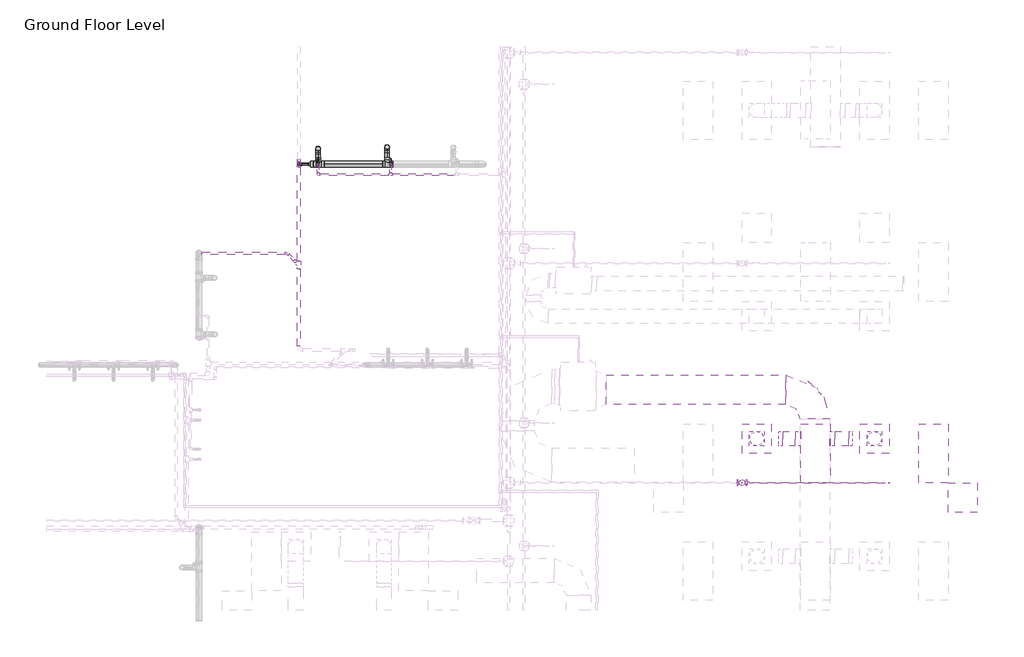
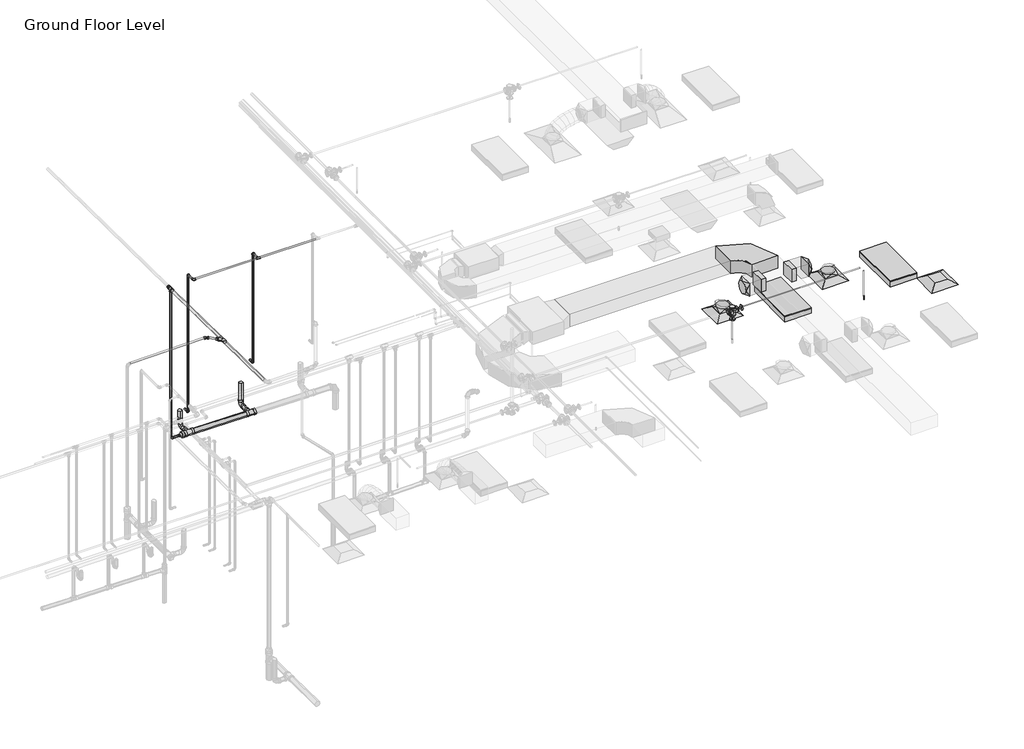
# One storey, part 20 of 75: 24 pipe segments, 20 pipe fittings, 7 duct fittings, 5 duct segments, 3 air terminals, 2 light fixtures, 1 fire suppression terminal.
"""IFC4 building model written with IfcOpenShell, lengths in millimetres."""

from ifc_helpers import new_model, si_unit, point, frame, frame_2d, origin, place, context, project, spatial, polyline, circle_curve, ellipse_curve, trimmed, segment, composite_curve, outline, extrude, transform, mapped, element, save
from ifc_brep_helpers import plane_surface, cylinder_surface, advanced_brep
from components import m_return_diffuser_600_x_600_face_300_x_300_connection_ff221211, m_rectangular_elbow_radius_1_w_c6ed0251, m_rectangular_takeoff_standard_cb0ccb98, m_rectangular_takeoff_standard_2be5eba1, m_rectangular_to_round_transition_angle_45_degree_641efff0, m_sprinkler_dry_pendent_hosted_15_mm_dry_pendent_9bda8e11, m_troffer_light_parabolic_rectangular1_0600x1200mm_4_lamp_86473d4a, m_bend_pvc_sch_40_dwv_standard_a4b99d37, m_bend_pvc_sch_40_dwv_standard_877aed9a, m_bend_pvc_sch_40_dwv_standard_980e5ff7, m_reducer_flanged_cs_class_150_standard_ccf252ad, m_reducer_pvc_sch_40_dwv_standard_19331f3d, m_reducer_pvc_sch_40_dwv_standard_230e9924, m_reducer_pvc_sch_40_dwv_standard_312d928c, m_tee_pvc_sch_40_standard_151c2b90, m_tee_reducing_sanitary_pvc_sch_40_dwv_standard_b49161a9, m_tee_reducing_sanitary_pvc_sch_40_dwv_standard_ca98856a, m_tee_round_base_flanged_cs_class_150_standard_7e5987a1, standard_517a5a8d, standard_72b35c3b, standard_c393d86d

model = new_model("IFC4")

# Units and contexts
model_context = context("Model", 3, world=origin())
ifc_project = project(units=[si_unit("LENGTHUNIT", "METRE", prefix="MILLI")], contexts=[model_context])

# Site, building, storey
site = spatial("IfcSite", under=ifc_project)
building = spatial("IfcBuilding", under=site)
storey = spatial("IfcBuildingStorey", under=building, Name="Ground Floor Level", Elevation=900.0)

# Air terminals
placement = place(None, origin())
m_return_diffuser_600_x_600_face_300_x_300_connection_shape = m_return_diffuser_600_x_600_face_300_x_300_connection_ff221211(model_context)
element("IfcAirTerminal", 1, ObjectType="M_Return Diffuser : 600 x 600 Face 300 x 300 Connection", at=placement, inside=storey, context=model_context, shape_type="MappedRepresentation", body=[
    mapped(m_return_diffuser_600_x_600_face_300_x_300_connection_shape, transform((14943.0482736, -35564.7846466, 3650.0), x_axis=(1.0, 0.0, 0.0), y_axis=(0.0, 1.0, 0.0), z_axis=(0.0, 0.0, 1.0))),
])
element("IfcAirTerminal", 2, ObjectType="M_Supply Diffuser : 600 x 600 Face 300 x 300 Connection", at=placement, inside=storey, context=model_context, shape_type="MappedRepresentation", body=[
    mapped(m_return_diffuser_600_x_600_face_300_x_300_connection_shape, transform((10742.7672395, -34364.7846466, 3650.0), x_axis=(1.0, 0.0, 0.0), y_axis=(0.0, 1.0, 0.0), z_axis=(0.0, 0.0, 1.0))),
])
element("IfcAirTerminal", 3, ObjectType="M_Supply Diffuser : 600 x 600 Face 300 x 300 Connection", at=placement, inside=storey, context=model_context, shape_type="MappedRepresentation", body=[
    mapped(m_return_diffuser_600_x_600_face_300_x_300_connection_shape, transform((13142.7672395, -34364.7846466, 3650.0), x_axis=(1.0, 0.0, 0.0), y_axis=(0.0, 1.0, 0.0), z_axis=(0.0, 0.0, 1.0))),
])

# Duct fittings
m_rectangular_elbow_radius_1_w_shape = m_rectangular_elbow_radius_1_w_c6ed0251(model_context)
element("IfcDuctFitting", 4, ObjectType="M_Rectangular Elbow - Radius : 1 W", at=placement, inside=storey, context=model_context, shape_type="MappedRepresentation", body=[
    mapped(m_rectangular_elbow_radius_1_w_shape, transform((11933.8644074, -33364.7726336, 4099.9875), x_axis=(0.0, 1.0, 0.0), y_axis=(-0.9999999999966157, 0.0, 2.601673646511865e-06), z_axis=(2.601673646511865e-06, 0.0, 0.9999999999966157))),
])
m_rectangular_takeoff_standard_shape = m_rectangular_takeoff_standard_cb0ccb98(model_context)
element("IfcDuctFitting", 5, ObjectType="M_Rectangular Takeoff : Standard", at=placement, inside=storey, context=model_context, shape_type="MappedRepresentation", body=[
    mapped(m_rectangular_takeoff_standard_shape, transform((12233.8644074, -34364.7846466, 4099.9875), x_axis=(1.0, 0.0, 0.0), y_axis=(0.0, -1.0, 0.0), z_axis=(0.0, 0.0, -1.0))),
])
m_rectangular_takeoff_standard_2_shape = m_rectangular_takeoff_standard_2be5eba1(model_context)
element("IfcDuctFitting", 6, ObjectType="M_Rectangular Takeoff : Standard", at=placement, inside=storey, context=model_context, shape_type="MappedRepresentation", body=[
    mapped(m_rectangular_takeoff_standard_2_shape, transform((11633.8644074, -34364.7846466, 4099.9875), x_axis=(-1.0, 0.0, 0.0), y_axis=(0.0, 1.0, 0.0), z_axis=(0.0, 0.0, -1.0))),
])
m_rectangular_to_round_transition_angle_45_degree_shape = m_rectangular_to_round_transition_angle_45_degree_641efff0(model_context)
element("IfcDuctFitting", 7, ObjectType="M_Rectangular to Round Transition - Angle : 45 Degree", at=placement, inside=storey, context=model_context, shape_type="MappedRepresentation", body=[
    mapped(m_rectangular_to_round_transition_angle_45_degree_shape, transform((10742.7672395, -34364.7846466, 3751.6), x_axis=(0.0, 0.0, 1.0), y_axis=(-1.0, 0.0, 0.0), z_axis=(0.0, -1.0, 0.0))),
])
element("IfcDuctFitting", 8, ObjectType="M_Rectangular to Round Transition - Angle : 45 Degree", at=placement, inside=storey, context=model_context, shape_type="MappedRepresentation", body=[
    mapped(m_rectangular_to_round_transition_angle_45_degree_shape, transform((11270.1156708, -34364.7846466, 4099.9875), x_axis=(-1.0, 0.0, 0.0), y_axis=(0.0, -1.0, 0.0), z_axis=(0.0, 0.0, 1.0))),
])
element("IfcDuctFitting", 9, ObjectType="M_Rectangular to Round Transition - Angle : 45 Degree", at=placement, inside=storey, context=model_context, shape_type="MappedRepresentation", body=[
    mapped(m_rectangular_to_round_transition_angle_45_degree_shape, transform((13142.7672395, -34364.7846466, 3751.6), x_axis=(0.0, 0.0, 1.0), y_axis=(-1.0, 0.0, 0.0), z_axis=(0.0, -1.0, 0.0))),
])
element("IfcDuctFitting", 10, ObjectType="M_Rectangular to Round Transition - Angle : 45 Degree", at=placement, inside=storey, context=model_context, shape_type="MappedRepresentation", body=[
    mapped(m_rectangular_to_round_transition_angle_45_degree_shape, transform((12615.4188082, -34364.7846466, 4099.9875), x_axis=(1.0, 0.0, 0.0), y_axis=(0.0, 1.0, 0.0), z_axis=(0.0, 0.0, 1.0))),
])

# Duct segments
element("IfcDuctSegment", 11, ObjectType="Flex - Round", at=placement, inside=storey, context=model_context, shape_type="AdvancedBrep", body=[
    advanced_brep(
    [(10892.7672395, -34364.7846466, 3826.6), (10742.7672395, -34514.7846466, 3826.6), (10592.7672395, -34364.7846466, 3826.6), (10742.7672395, -34214.7846466, 3826.6), (10892.7672395, -34364.7846466, 3829.8098344), (10742.7672395, -34214.7846466, 3864.5152119), (10592.7672395, -34364.7846466, 3899.2205895), (10742.7672395, -34514.7846466, 3864.5152119)],
    [
        (0, 1, circle_curve(frame((10742.7672395, -34364.7846466, 3826.6), z_axis=(0.0, 0.0, -1.0), x_axis=(1.0, 0.0, 0.0)), 150.0)),
        (1, 2, circle_curve(frame((10742.7672395, -34364.7846466, 3826.6), z_axis=(0.0, 0.0, -1.0), x_axis=(1.0, 0.0, 0.0)), 150.0)),
        (2, 3, circle_curve(frame((10742.7672395, -34364.7846466, 3826.6), z_axis=(0.0, 0.0, -1.0), x_axis=(1.0, 0.0, 0.0)), 150.0)),
        (3, 0, circle_curve(frame((10742.7672395, -34364.7846466, 3826.6), z_axis=(0.0, 0.0, -1.0), x_axis=(1.0, 0.0, 0.0)), 150.0)),
        (4, 5, ellipse_curve(frame((10742.7672395, -34364.7846466, 3864.5152119), z_axis=(0.22541442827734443, 0.0, 0.9742629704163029), x_axis=(0.9742629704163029, 0.0, -0.22541442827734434)), 153.9625384, 150.0)),
        (5, 6, ellipse_curve(frame((10742.7672395, -34364.7846466, 3864.5152119), z_axis=(0.22541442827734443, 0.0, 0.9742629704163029), x_axis=(0.9742629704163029, 0.0, -0.22541442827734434)), 153.9625384, 150.0)),
        (6, 7, ellipse_curve(frame((10742.7672395, -34364.7846466, 3864.5152119), z_axis=(0.22541442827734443, 0.0, 0.9742629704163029), x_axis=(0.9742629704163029, 0.0, -0.22541442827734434)), 153.9625384, 150.0)),
        (7, 4, ellipse_curve(frame((10742.7672395, -34364.7846466, 3864.5152119), z_axis=(0.22541442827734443, 0.0, 0.9742629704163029), x_axis=(0.9742629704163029, 0.0, -0.22541442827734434)), 153.9625384, 150.0)),
        (0, 4),
        (7, 1),
        (6, 2),
        (5, 3),
    ],
    [
        plane_surface(frame((10742.7672395, -34514.7846466, 3826.6), z_axis=(0.0, 0.0, -1.0), x_axis=(1.0, 0.0, 0.0))),
        plane_surface(frame((10742.7672395, -34514.7846466, 3864.5152119), z_axis=(0.22541442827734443, 0.0, 0.9742629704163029), x_axis=(0.9742629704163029, 0.0, -0.22541442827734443))),
        cylinder_surface(frame((10742.7672395, -34364.7846466, 3826.6), z_axis=(0.0, 0.0, -1.0), x_axis=(1.0, 0.0, 0.0)), 150.0),
    ],
    [
        (0, [[1, 2, 3, 4]]),
        (1, [[5, 6, 7, 8]]),
        (2, [[-1, 9, -8, 10]]),
        (2, [[-2, -10, -7, 11]]),
        (2, [[-3, -11, -6, 12]]),
        (2, [[-4, -12, -5, -9]]),
    ],
),
])
element("IfcDuctSegment", 12, ObjectType="Flex - Round", at=placement, inside=storey, context=model_context, shape_type="AdvancedBrep", body=[
    advanced_brep(
    [(13292.7672395, -34364.7846466, 3826.6), (13142.7672395, -34514.7846466, 3826.6), (12992.7672395, -34364.7846466, 3826.6), (13142.7672395, -34214.7846466, 3826.6), (13292.7672395, -34364.7846466, 3899.2205895), (13142.7672395, -34214.7846466, 3864.5152119), (12992.7672395, -34364.7846466, 3829.8098344), (13142.7672395, -34514.7846466, 3864.5152119)],
    [
        (0, 1, circle_curve(frame((13142.7672395, -34364.7846466, 3826.6), z_axis=(0.0, 0.0, -1.0), x_axis=(1.0, 0.0, 0.0)), 150.0)),
        (1, 2, circle_curve(frame((13142.7672395, -34364.7846466, 3826.6), z_axis=(0.0, 0.0, -1.0), x_axis=(1.0, 0.0, 0.0)), 150.0)),
        (2, 3, circle_curve(frame((13142.7672395, -34364.7846466, 3826.6), z_axis=(0.0, 0.0, -1.0), x_axis=(1.0, 0.0, 0.0)), 150.0)),
        (3, 0, circle_curve(frame((13142.7672395, -34364.7846466, 3826.6), z_axis=(0.0, 0.0, -1.0), x_axis=(1.0, 0.0, 0.0)), 150.0)),
        (4, 5, ellipse_curve(frame((13142.7672395, -34364.7846466, 3864.5152119), z_axis=(-0.22541442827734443, 0.0, 0.9742629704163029), x_axis=(-0.9742629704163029, 0.0, -0.22541442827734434)), 153.9625384, 150.0)),
        (5, 6, ellipse_curve(frame((13142.7672395, -34364.7846466, 3864.5152119), z_axis=(-0.22541442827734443, 0.0, 0.9742629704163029), x_axis=(-0.9742629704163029, 0.0, -0.22541442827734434)), 153.9625384, 150.0)),
        (6, 7, ellipse_curve(frame((13142.7672395, -34364.7846466, 3864.5152119), z_axis=(-0.22541442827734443, 0.0, 0.9742629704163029), x_axis=(-0.9742629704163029, 0.0, -0.22541442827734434)), 153.9625384, 150.0)),
        (7, 4, ellipse_curve(frame((13142.7672395, -34364.7846466, 3864.5152119), z_axis=(-0.22541442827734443, 0.0, 0.9742629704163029), x_axis=(-0.9742629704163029, 0.0, -0.22541442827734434)), 153.9625384, 150.0)),
        (0, 4),
        (7, 1),
        (6, 2),
        (5, 3),
    ],
    [
        plane_surface(frame((13142.7672395, -34514.7846466, 3826.6), z_axis=(0.0, 0.0, -1.0), x_axis=(1.0, 0.0, 0.0))),
        plane_surface(frame((13142.7672395, -34214.7846466, 3864.5152119), z_axis=(-0.22541442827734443, 0.0, 0.9742629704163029), x_axis=(-0.9742629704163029, 0.0, -0.22541442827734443))),
        cylinder_surface(frame((13142.7672395, -34364.7846466, 3826.6), z_axis=(0.0, 0.0, -1.0), x_axis=(1.0, 0.0, 0.0)), 150.0),
    ],
    [
        (0, [[1, 2, 3, 4]]),
        (1, [[5, 6, 7, 8]]),
        (2, [[-1, 9, -8, 10]]),
        (2, [[-2, -10, -7, 11]]),
        (2, [[-3, -11, -6, 12]]),
        (2, [[-4, -12, -5, -9]]),
    ],
),
])
element("IfcDuctSegment", 13, ObjectType="Radius Elbows / Taps", at=placement, inside=storey, context=model_context, shape_type="SweptSolid", body=[
    extrude(outline(polyline([(0.0, -600.0), (0.0, 0.0), (3664.5995898, 0.0), (3664.5995898, -600.0), (0.0, -600.0)])), frame((7669.2643699, -33064.7726336, 3950.0), z_axis=(2.9850453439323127e-06, 0.0, 0.9999999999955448), x_axis=(0.9999999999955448, 0.0, -2.9850453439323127e-06)), (0.0, 0.0, 1.0), 300.0),
])
element("IfcDuctSegment", 14, ObjectType="Radius Elbows / Taps", at=placement, inside=storey, context=model_context, shape_type="SweptSolid", body=[
    extrude(outline(polyline([(11532.2644074, -34214.7846466), (11532.2644074, -34514.7846466), (11270.1156708, -34514.7846466), (11270.1156708, -34214.7846466), (11532.2644074, -34214.7846466)])), frame((0.0, 0.0, 3949.9875), z_axis=(0.0, 0.0, 1.0), x_axis=(1.0, 0.0, 0.0)), (0.0, 0.0, 1.0), 300.0),
])
element("IfcDuctSegment", 15, ObjectType="Radius Elbows / Taps", at=placement, inside=storey, context=model_context, shape_type="SweptSolid", body=[
    extrude(outline(polyline([(12335.4644074, -34514.7846466), (12335.4644074, -34214.7846466), (12615.4188082, -34214.7846466), (12615.4188082, -34514.7846466), (12335.4644074, -34514.7846466)])), frame((0.0, 0.0, 3949.9875), z_axis=(0.0, 0.0, 1.0), x_axis=(1.0, 0.0, 0.0)), (0.0, 0.0, 1.0), 300.0),
])

# Fire suppression terminal
m_sprinkler_dry_pendent_hosted_15_mm_dry_pendent_shape = m_sprinkler_dry_pendent_hosted_15_mm_dry_pendent_9bda8e11(model_context)
element("IfcFireSuppressionTerminal", 16, ObjectType="M_Sprinkler - Dry - Pendent - Hosted : 15 mm Dry Pendent", at=placement, inside=storey, context=model_context, shape_type="MappedRepresentation", body=[
    mapped(m_sprinkler_dry_pendent_hosted_15_mm_dry_pendent_shape, transform((13443.0482736, -35264.7846466, 3650.0), x_axis=(1.0, 0.0, 0.0), y_axis=(0.0, -1.0, 0.0), z_axis=(0.0, 0.0, -1.0))),
])

# Light fixtures
m_troffer_light_parabolic_rectangular1_0600x1200mm_4_lamp_shape = m_troffer_light_parabolic_rectangular1_0600x1200mm_4_lamp_86473d4a(model_context)
element("IfcLightFixture", 17, ObjectType="M_Troffer Light - Parabolic Rectangular1 : 0600x1200mm(4 Lamp) - 277V 2", at=placement, inside=storey, context=model_context, shape_type="MappedRepresentation", body=[
    mapped(m_troffer_light_parabolic_rectangular1_0600x1200mm_4_lamp_shape, transform((14283.5823415, -34646.0811451, 3650.0), x_axis=(0.0, 1.0, 0.0), y_axis=(-1.0, 0.0, 0.0), z_axis=(0.0, 0.0, 1.0))),
])
element("IfcLightFixture", 18, ObjectType="M_Troffer Light - Parabolic Rectangular1 : 0600x1200mm(4 Lamp) - 277V 2", at=placement, inside=storey, context=model_context, shape_type="MappedRepresentation", body=[
    mapped(m_troffer_light_parabolic_rectangular1_0600x1200mm_4_lamp_shape, transform((11883.5823415, -34646.0811451, 3650.0), x_axis=(0.0, 1.0, 0.0), y_axis=(-1.0, 0.0, 0.0), z_axis=(0.0, 0.0, 1.0))),
])

# Pipe fittings
m_bend_pvc_sch_40_dwv_standard_shape = m_bend_pvc_sch_40_dwv_standard_a4b99d37(model_context)
element("IfcPipeFitting", 19, ObjectType="M_Bend - PVC - Sch 40 - DWV : Standard", at=placement, inside=storey, context=model_context, shape_type="MappedRepresentation", body=[
    mapped(m_bend_pvc_sch_40_dwv_standard_shape, transform((3203.6056556, -28411.2419494, 467.9903626), x_axis=(0.0, 0.0, -1.0), y_axis=(0.0, -1.0, 0.0), z_axis=(-1.0, 0.0, 0.0))),
])
element("IfcPipeFitting", 20, ObjectType="M_Bend - PVC - Sch 40 - DWV : Standard", at=placement, inside=storey, context=model_context, shape_type="MappedRepresentation", body=[
    mapped(m_bend_pvc_sch_40_dwv_standard_shape, transform((1796.7972875, -28443.3871738, 482.0584463), x_axis=(0.0, 0.0, -1.0), y_axis=(0.0, -1.0, 0.0), z_axis=(-1.0, 0.0, 0.0))),
])
m_bend_pvc_sch_40_dwv_standard_2_shape = m_bend_pvc_sch_40_dwv_standard_877aed9a(model_context)
element("IfcPipeFitting", 21, ObjectType="M_Bend - PVC - Sch 40 - DWV : Standard", at=placement, inside=storey, context=model_context, shape_type="MappedRepresentation", body=[
    mapped(m_bend_pvc_sch_40_dwv_standard_2_shape, transform((1404.8669708, -28761.5689421, 485.9777495), x_axis=(-0.9999500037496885, 0.0, 0.009999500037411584), y_axis=(0.009999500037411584, 0.0, 0.9999500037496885), z_axis=(0.0, 1.0, 0.0))),
])
m_bend_pvc_sch_40_dwv_standard_3_shape = m_bend_pvc_sch_40_dwv_standard_980e5ff7(model_context)
element("IfcPipeFitting", 22, ObjectType="M_Bend - PVC - Sch 40 - DWV : Standard", at=placement, inside=storey, context=model_context, shape_type="MappedRepresentation", body=[
    mapped(m_bend_pvc_sch_40_dwv_standard_3_shape, transform((1167.6346326, -30581.7541446, 4102.0377498), x_axis=(-0.7070204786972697, 0.7069851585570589, -0.017147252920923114), y_axis=(-0.7071225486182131, -0.7070845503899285, 0.0030232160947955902), z_axis=(-0.009987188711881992, 0.014262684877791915, 0.9998484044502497))),
])
m_reducer_flanged_cs_class_150_standard_shape = m_reducer_flanged_cs_class_150_standard_ccf252ad(model_context)
element("IfcPipeFitting", 23, ObjectType="M_Reducer - Flanged - CS - Class 150 : Standard", at=placement, inside=storey, context=model_context, shape_type="MappedRepresentation", body=[
    mapped(m_reducer_flanged_cs_class_150_standard_shape, transform((10543.7568674, -35264.7846466, 4347.5), x_axis=(1.0, 0.0, 0.0), y_axis=(0.0, 0.0, 1.0), z_axis=(0.0, -1.0, 0.0))),
])
element("IfcPipeFitting", 24, ObjectType="M_Reducer - Flanged - CS - Class 150 : Standard", at=placement, inside=storey, context=model_context, shape_type="MappedRepresentation", body=[
    mapped(m_reducer_flanged_cs_class_150_standard_shape, transform((10443.0482736, -35264.7846466, 4246.7914063), x_axis=(0.0, 0.0, -1.0), y_axis=(-1.0, 0.0, 0.0), z_axis=(0.0, 1.0, 0.0))),
])
m_reducer_pvc_sch_40_dwv_standard_shape = m_reducer_pvc_sch_40_dwv_standard_19331f3d(model_context)
element("IfcPipeFitting", 25, ObjectType="M_Reducer - PVC - Sch 40 - DWV : Standard", at=placement, inside=storey, context=model_context, shape_type="MappedRepresentation", body=[
    mapped(m_reducer_pvc_sch_40_dwv_standard_shape, transform((1692.863236, -28761.5689421, 483.0977868), x_axis=(-0.9999500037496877, 0.0, 0.00999950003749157), y_axis=(0.0, -1.0000000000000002, 0.0), z_axis=(0.00999950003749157, 0.0, 0.9999500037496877))),
])
m_reducer_pvc_sch_40_dwv_standard_2_shape = m_reducer_pvc_sch_40_dwv_standard_230e9924(model_context)
element("IfcPipeFitting", 26, ObjectType="M_Reducer - PVC - Sch 40 - DWV : Standard", at=placement, inside=storey, context=model_context, shape_type="MappedRepresentation", body=[
    mapped(m_reducer_pvc_sch_40_dwv_standard_2_shape, transform((1404.8829692, -28664.0719039, 4086.0016836), x_axis=(0.0, -0.9999500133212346, 0.00999854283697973), y_axis=(1.0, 0.0, 0.0), z_axis=(0.0, 0.00999854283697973, 0.9999500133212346))),
])
m_reducer_pvc_sch_40_dwv_standard_3_shape = m_reducer_pvc_sch_40_dwv_standard_312d928c(model_context)
element("IfcPipeFitting", 27, ObjectType="M_Reducer - PVC - Sch 40 - DWV : Standard", at=placement, inside=storey, context=model_context, shape_type="MappedRepresentation", body=[
    mapped(m_reducer_pvc_sch_40_dwv_standard_3_shape, transform((1345.2677086, -30759.3781518, 4106.4029379), x_axis=(-0.7070174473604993, 0.7069881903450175, -0.017147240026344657), y_axis=(-0.7070524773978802, -0.7071546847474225, -0.003007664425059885), z_axis=(-0.014252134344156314, 0.009997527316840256, 0.9998484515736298))),
])
m_tee_pvc_sch_40_standard_shape = m_tee_pvc_sch_40_standard_151c2b90(model_context)
element("IfcPipeFitting", 28, ObjectType="M_Tee - PVC - Sch 40 : Standard", at=placement, inside=storey, context=model_context, shape_type="MappedRepresentation", body=[
    mapped(m_tee_pvc_sch_40_standard_shape, transform((1404.8829692, -30818.9909454, 4107.8487823), x_axis=(0.0, -0.9999500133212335, 0.009998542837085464), y_axis=(0.9998984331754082, 0.0001425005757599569, 0.014251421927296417), z_axis=(-0.014252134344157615, 0.009997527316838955, 0.9998484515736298))),
])
m_tee_reducing_sanitary_pvc_sch_40_dwv_standard_shape = m_tee_reducing_sanitary_pvc_sch_40_dwv_standard_b49161a9(model_context)
element("IfcPipeFitting", 29, ObjectType="M_Tee Reducing Sanitary - PVC - Sch 40 - DWV : Standard", at=placement, inside=storey, context=model_context, shape_type="MappedRepresentation", body=[
    mapped(m_tee_reducing_sanitary_pvc_sch_40_dwv_standard_shape, transform((3203.6056556, -28761.5689421, 467.9903626), x_axis=(-0.9999500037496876, 0.0, 0.00999950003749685), y_axis=(0.0, -1.0, 0.0), z_axis=(0.00999950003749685, 0.0, 0.9999500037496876))),
])
element("IfcPipeFitting", 30, ObjectType="M_Tee Reducing Sanitary - PVC - Sch 40 - DWV : Standard", at=placement, inside=storey, context=model_context, shape_type="MappedRepresentation", body=[
    mapped(m_tee_reducing_sanitary_pvc_sch_40_dwv_standard_shape, transform((1796.7972875, -28761.5689421, 482.0584463), x_axis=(-0.9999500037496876, 0.0, 0.009999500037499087), y_axis=(0.0, -1.0000000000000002, 0.0), z_axis=(0.009999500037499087, 0.0, 0.9999500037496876))),
])
m_tee_reducing_sanitary_pvc_sch_40_dwv_standard_2_shape = m_tee_reducing_sanitary_pvc_sch_40_dwv_standard_ca98856a(model_context)
element("IfcPipeFitting", 31, ObjectType="M_Tee Reducing Sanitary - PVC - Sch 40 - DWV : Standard", at=placement, inside=storey, context=model_context, shape_type="MappedRepresentation", body=[
    mapped(m_tee_reducing_sanitary_pvc_sch_40_dwv_standard_2_shape, transform((1404.8829692, -28761.5849374, 4087.2766918), x_axis=(0.0, 0.9999500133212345, -0.009998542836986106), y_axis=(0.0, 0.009998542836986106, 0.9999500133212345), z_axis=(1.0, 0.0, 0.0))),
])
m_tee_round_base_flanged_cs_class_150_standard_shape = m_tee_round_base_flanged_cs_class_150_standard_7e5987a1(model_context)
element("IfcPipeFitting", 32, ObjectType="M_Tee Round Base - Flanged - CS - Class 150 : Standard", at=placement, inside=storey, context=model_context, shape_type="MappedRepresentation", body=[
    mapped(m_tee_round_base_flanged_cs_class_150_standard_shape, transform((10443.0482736, -35264.7846466, 4347.5), x_axis=(1.0, 0.0, 0.0), y_axis=(0.0, 0.0, 1.0), z_axis=(0.0, -1.0, 0.0))),
])
standard_shape = standard_517a5a8d(model_context)
element("IfcPipeFitting", 33, ObjectType="M_Elbow - CPVC - Sch 40 : Standard", at=placement, inside=storey, context=model_context, shape_type="MappedRepresentation", body=[
    mapped(standard_shape, transform((3277.0059257, -28764.7846466, 1655.0), x_axis=(0.0, -1.0, 0.0), y_axis=(0.0, 0.0, 1.0), z_axis=(-1.0, 0.0, 0.0))),
])
element("IfcPipeFitting", 34, ObjectType="M_Elbow - CPVC - Sch 40 : Standard", at=placement, inside=storey, context=model_context, shape_type="MappedRepresentation", body=[
    mapped(standard_shape, transform((3277.0059257, -28764.7846466, 4300.0), x_axis=(0.0, 0.0, 1.0), y_axis=(0.0, -1.0, 0.0), z_axis=(1.0, 0.0, 0.0))),
])
element("IfcPipeFitting", 35, ObjectType="M_Elbow - CPVC - Sch 40 : Standard", at=placement, inside=storey, context=model_context, shape_type="MappedRepresentation", body=[
    mapped(standard_shape, transform((1796.7587914, -28974.7846466, 4300.0), x_axis=(0.0, -1.0, 0.0), y_axis=(1.0, 0.0, 0.0), z_axis=(0.0, 0.0, 1.0))),
])
element("IfcPipeFitting", 36, ObjectType="M_Elbow - CPVC - Sch 40 : Standard", at=placement, inside=storey, context=model_context, shape_type="MappedRepresentation", body=[
    mapped(standard_shape, transform((1796.7587914, -28769.5558494, 4300.0), x_axis=(0.0, 0.0, 1.0), y_axis=(0.0, -1.0, 0.0), z_axis=(1.0, 0.0, 0.0))),
])
standard_2_shape = standard_72b35c3b(model_context)
element("IfcPipeFitting", 37, ObjectType="M_Tee - CPVC - Sch 40 : Standard", at=placement, inside=storey, context=model_context, shape_type="MappedRepresentation", body=[
    mapped(standard_2_shape, transform((3277.0059257, -28974.7846466, 4300.0), x_axis=(1.0, 0.0, 0.0), y_axis=(0.0, -1.0, 0.0), z_axis=(0.0, 0.0, -1.0))),
])
standard_3_shape = standard_c393d86d(model_context)
element("IfcPipeFitting", 38, ObjectType="M_Elbow - CPVC - Sch 40 : Standard", at=placement, inside=storey, context=model_context, shape_type="MappedRepresentation", body=[
    mapped(standard_3_shape, transform((1796.7587914, -28769.5558494, 983.5), x_axis=(0.0, -0.9999999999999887, 1.506625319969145e-07), y_axis=(0.0, 1.506625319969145e-07, 0.9999999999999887), z_axis=(-1.0, 0.0, 0.0))),
])

# Pipe segments
element("IfcPipeSegment", 39, ObjectType="CPVC", at=placement, inside=storey, context=model_context, shape_type="SweptSolid", body=[
    extrude(outline(composite_curve([segment(trimmed(circle_curve(frame_2d((-28974.7846466, 4300.0)), 16.7005), [point((-28958.0841466, 4300.0))], [point((-28974.7846466, 4283.2995))], False, "CARTESIAN"), True, "CONTINUOUS"), segment(trimmed(circle_curve(frame_2d((-28974.7846466, 4300.0)), 16.7005), [point((-28974.7846466, 4283.2995))], [point((-28991.4851466, 4300.0))], False, "CARTESIAN"), True, "CONTINUOUS"), segment(trimmed(circle_curve(frame_2d((-28974.7846466, 4300.0)), 16.7005), [point((-28991.4851466, 4300.0))], [point((-28974.7846466, 4316.7005))], False, "CARTESIAN"), True, "CONTINUOUS"), segment(trimmed(circle_curve(frame_2d((-28974.7846466, 4300.0)), 16.7005), [point((-28974.7846466, 4316.7005))], [point((-28958.0841466, 4300.0))], False, "CARTESIAN"), True, "CONTINUOUS")], self_intersect=False)), frame((1840.0213414, 0.0, 0.0), z_axis=(1.0, 0.0, 0.0), x_axis=(0.0, 1.0, 0.0)), (0.0, 0.0, 1.0), 1397.2843843),
])
element("IfcPipeSegment", 40, ObjectType="CPVC", at=placement, inside=storey, context=model_context, shape_type="SweptSolid", body=[
    extrude(outline(composite_curve([segment(trimmed(circle_curve(frame_2d((1655.0, 3277.0059257)), 16.7005), [point((1655.0, 3260.3054257))], [point((1638.2995, 3277.0059257))], False, "CARTESIAN"), True, "CONTINUOUS"), segment(trimmed(circle_curve(frame_2d((1655.0, 3277.0059257)), 16.7005), [point((1638.2995, 3277.0059257))], [point((1655.0, 3293.7064257))], False, "CARTESIAN"), True, "CONTINUOUS"), segment(trimmed(circle_curve(frame_2d((1655.0, 3277.0059257)), 16.7005), [point((1655.0, 3293.7064257))], [point((1671.7005, 3277.0059257))], False, "CARTESIAN"), True, "CONTINUOUS"), segment(trimmed(circle_curve(frame_2d((1655.0, 3277.0059257)), 16.7005), [point((1671.7005, 3277.0059257))], [point((1655.0, 3260.3054257))], False, "CARTESIAN"), True, "CONTINUOUS")], self_intersect=False)), frame((0.0, -28721.5220966, 0.0), z_axis=(0.0, 1.0, 0.0), x_axis=(0.0, 0.0, 1.0)), (0.0, 0.0, 1.0), 76.73745),
])
element("IfcPipeSegment", 41, ObjectType="CPVC", at=placement, inside=storey, context=model_context, shape_type="SweptSolid", body=[
    extrude(outline(composite_curve([segment(trimmed(circle_curve(frame_2d((4300.0, 3277.0059257)), 16.7005), [point((4300.0, 3293.7064257))], [point((4316.7005, 3277.0059257))], False, "CARTESIAN"), True, "CONTINUOUS"), segment(trimmed(circle_curve(frame_2d((4300.0, 3277.0059257)), 16.7005), [point((4316.7005, 3277.0059257))], [point((4300.0, 3260.3054257))], False, "CARTESIAN"), True, "CONTINUOUS"), segment(trimmed(circle_curve(frame_2d((4300.0, 3277.0059257)), 16.7005), [point((4300.0, 3260.3054257))], [point((4283.2995, 3277.0059257))], False, "CARTESIAN"), True, "CONTINUOUS"), segment(trimmed(circle_curve(frame_2d((4300.0, 3277.0059257)), 16.7005), [point((4283.2995, 3277.0059257))], [point((4300.0, 3293.7064257))], False, "CARTESIAN"), True, "CONTINUOUS")], self_intersect=False)), frame((0.0, -28935.0844466, 0.0), z_axis=(0.0, 1.0, 0.0), x_axis=(0.0, 0.0, 1.0)), (0.0, 0.0, 1.0), 127.03725),
])
element("IfcPipeSegment", 42, ObjectType="CPVC", at=placement, inside=storey, context=model_context, shape_type="SweptSolid", body=[
    extrude(outline(composite_curve([segment(trimmed(circle_curve(frame_2d((3277.0059257, -28764.7846466)), 16.7005), [point((3260.3054257, -28764.7846466))], [point((3277.0059257, -28748.0841466))], False, "CARTESIAN"), True, "CONTINUOUS"), segment(trimmed(circle_curve(frame_2d((3277.0059257, -28764.7846466)), 16.7005), [point((3277.0059257, -28748.0841466))], [point((3293.7064257, -28764.7846466))], False, "CARTESIAN"), True, "CONTINUOUS"), segment(trimmed(circle_curve(frame_2d((3277.0059257, -28764.7846466)), 16.7005), [point((3293.7064257, -28764.7846466))], [point((3277.0059257, -28781.4851466))], False, "CARTESIAN"), True, "CONTINUOUS"), segment(trimmed(circle_curve(frame_2d((3277.0059257, -28764.7846466)), 16.7005), [point((3277.0059257, -28781.4851466))], [point((3260.3054257, -28764.7846466))], False, "CARTESIAN"), True, "CONTINUOUS")], self_intersect=False)), frame((0.0, 0.0, 1698.26255), z_axis=(0.0, 0.0, 1.0), x_axis=(1.0, 0.0, 0.0)), (0.0, 0.0, 1.0), 2558.4749),
])
element("IfcPipeSegment", 43, ObjectType="CPVC", at=placement, inside=storey, context=model_context, shape_type="SweptSolid", body=[
    extrude(outline(composite_curve([segment(trimmed(circle_curve(frame_2d((-28974.7846466, 4300.0)), 16.7005), [point((-28958.0841466, 4300.0))], [point((-28974.7846466, 4283.2995))], False, "CARTESIAN"), True, "CONTINUOUS"), segment(trimmed(circle_curve(frame_2d((-28974.7846466, 4300.0)), 16.7005), [point((-28974.7846466, 4283.2995))], [point((-28991.4851466, 4300.0))], False, "CARTESIAN"), True, "CONTINUOUS"), segment(trimmed(circle_curve(frame_2d((-28974.7846466, 4300.0)), 16.7005), [point((-28991.4851466, 4300.0))], [point((-28974.7846466, 4316.7005))], False, "CARTESIAN"), True, "CONTINUOUS"), segment(trimmed(circle_curve(frame_2d((-28974.7846466, 4300.0)), 16.7005), [point((-28974.7846466, 4316.7005))], [point((-28958.0841466, 4300.0))], False, "CARTESIAN"), True, "CONTINUOUS")], self_intersect=False)), frame((3316.7061257, 0.0, 0.0), z_axis=(1.0, 0.0, 0.0), x_axis=(0.0, 1.0, 0.0)), (0.0, 0.0, 1.0), 1270.7089625),
])
element("IfcPipeSegment", 44, ObjectType="CPVC", at=placement, inside=storey, context=model_context, shape_type="SweptSolid", body=[
    extrude(outline(composite_curve([segment(trimmed(circle_curve(frame_2d((983.4999789, 1796.7587914)), 16.7005), [point((983.4999789, 1780.0582914))], [point((966.7994789, 1796.7587914))], False, "CARTESIAN"), True, "CONTINUOUS"), segment(trimmed(circle_curve(frame_2d((983.4999789, 1796.7587914)), 16.7005), [point((966.7994789, 1796.7587914))], [point((983.4999789, 1813.4592914))], False, "CARTESIAN"), True, "CONTINUOUS"), segment(trimmed(circle_curve(frame_2d((983.4999789, 1796.7587914)), 16.7005), [point((983.4999789, 1813.4592914))], [point((1000.2004789, 1796.7587914))], False, "CARTESIAN"), True, "CONTINUOUS"), segment(trimmed(circle_curve(frame_2d((983.4999789, 1796.7587914)), 16.7005), [point((1000.2004789, 1796.7587914))], [point((983.4999789, 1780.0582914))], False, "CARTESIAN"), True, "CONTINUOUS")], self_intersect=False)), frame((0.0, -28726.2933025, 0.0), z_axis=(0.0, 1.0, 0.0), x_axis=(0.0, 0.0, 1.0)), (0.0, 0.0, 1.0), 96.7374532),
])
element("IfcPipeSegment", 45, ObjectType="CPVC", at=placement, inside=storey, context=model_context, shape_type="SweptSolid", body=[
    extrude(outline(composite_curve([segment(trimmed(circle_curve(frame_2d((4300.0, 1796.7587914)), 16.7005), [point((4300.0, 1813.4592914))], [point((4316.7005, 1796.7587914))], False, "CARTESIAN"), True, "CONTINUOUS"), segment(trimmed(circle_curve(frame_2d((4300.0, 1796.7587914)), 16.7005), [point((4316.7005, 1796.7587914))], [point((4300.0, 1780.0582914))], False, "CARTESIAN"), True, "CONTINUOUS"), segment(trimmed(circle_curve(frame_2d((4300.0, 1796.7587914)), 16.7005), [point((4300.0, 1780.0582914))], [point((4283.2995, 1796.7587914))], False, "CARTESIAN"), True, "CONTINUOUS"), segment(trimmed(circle_curve(frame_2d((4300.0, 1796.7587914)), 16.7005), [point((4283.2995, 1796.7587914))], [point((4300.0, 1813.4592914))], False, "CARTESIAN"), True, "CONTINUOUS")], self_intersect=False)), frame((0.0, -28931.5220966, 0.0), z_axis=(0.0, 1.0, 0.0), x_axis=(0.0, 0.0, 1.0)), (0.0, 0.0, 1.0), 118.7036973),
])
element("IfcPipeSegment", 46, ObjectType="CPVC", at=placement, inside=storey, context=model_context, shape_type="SweptSolid", body=[
    extrude(outline(composite_curve([segment(trimmed(circle_curve(frame_2d((1796.7587914, -28769.5558494)), 16.7005), [point((1780.0582914, -28769.5558494))], [point((1796.7587914, -28752.8553494))], False, "CARTESIAN"), True, "CONTINUOUS"), segment(trimmed(circle_curve(frame_2d((1796.7587914, -28769.5558494)), 16.7005), [point((1796.7587914, -28752.8553494))], [point((1813.4592914, -28769.5558494))], False, "CARTESIAN"), True, "CONTINUOUS"), segment(trimmed(circle_curve(frame_2d((1796.7587914, -28769.5558494)), 16.7005), [point((1813.4592914, -28769.5558494))], [point((1796.7587914, -28786.2563494))], False, "CARTESIAN"), True, "CONTINUOUS"), segment(trimmed(circle_curve(frame_2d((1796.7587914, -28769.5558494)), 16.7005), [point((1796.7587914, -28786.2563494))], [point((1780.0582914, -28769.5558494))], False, "CARTESIAN"), True, "CONTINUOUS")], self_intersect=False)), frame((0.0, 0.0, 1026.7625468), z_axis=(0.0, 0.0, 1.0), x_axis=(1.0, 0.0, 0.0)), (0.0, 0.0, 1.0), 3229.9749032),
])
element("IfcPipeSegment", 47, ObjectType="PVC - DWV", at=placement, inside=storey, context=model_context, shape_type="SweptSolid", body=[
    extrude(outline(composite_curve([segment(trimmed(circle_curve(frame_2d((0.0, -44.45)), 44.45), [point((-44.45, -44.45))], [point((0.0, 0.0))], False, "CARTESIAN"), True, "CONTINUOUS"), segment(trimmed(circle_curve(frame_2d((0.0, -44.45)), 44.45), [point((0.0, 0.0))], [point((44.45, -44.45))], False, "CARTESIAN"), True, "CONTINUOUS"), segment(trimmed(circle_curve(frame_2d((0.0, -44.45)), 44.45), [point((44.45, -44.45))], [point((0.0, -88.9))], False, "CARTESIAN"), True, "CONTINUOUS"), segment(trimmed(circle_curve(frame_2d((0.0, -44.45)), 44.45), [point((0.0, -88.9))], [point((-44.45, -44.45))], False, "CARTESIAN"), True, "CONTINUOUS")], self_intersect=False)), frame((3203.6056556, -28455.6919494, 583.8905626), z_axis=(-1.1079649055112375e-05, 0.0, 0.9999999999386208), x_axis=(-0.9999999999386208, 0.0, -1.1079649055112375e-05)), (0.0, 0.0, 1.0), 406.1094374),
])
element("IfcPipeSegment", 48, ObjectType="PVC - DWV", at=placement, inside=storey, context=model_context, shape_type="SweptSolid", body=[
    extrude(outline(composite_curve([segment(trimmed(circle_curve(frame_2d((467.9903626, 3203.6056556)), 44.45), [point((467.9903626, 3159.1556556))], [point((423.5403626, 3203.6056556))], False, "CARTESIAN"), True, "CONTINUOUS"), segment(trimmed(circle_curve(frame_2d((467.9903626, 3203.6056556)), 44.45), [point((423.5403626, 3203.6056556))], [point((467.9903626, 3248.0556556))], False, "CARTESIAN"), True, "CONTINUOUS"), segment(trimmed(circle_curve(frame_2d((467.9903626, 3203.6056556)), 44.45), [point((467.9903626, 3248.0556556))], [point((512.4403626, 3203.6056556))], False, "CARTESIAN"), True, "CONTINUOUS"), segment(trimmed(circle_curve(frame_2d((467.9903626, 3203.6056556)), 44.45), [point((512.4403626, 3203.6056556))], [point((467.9903626, 3159.1556556))], False, "CARTESIAN"), True, "CONTINUOUS")], self_intersect=False)), frame((0.0, -28632.9687421, 0.0), z_axis=(0.0, 1.0, 0.0), x_axis=(0.0, 0.0, 1.0)), (0.0, 0.0, 1.0), 105.8265928),
])
element("IfcPipeSegment", 49, ObjectType="PVC - DWV", at=placement, inside=storey, context=model_context, shape_type="SweptSolid", body=[
    extrude(outline(composite_curve([segment(trimmed(circle_curve(frame_2d((0.0, -44.45)), 44.45), [point((-44.45, -44.45))], [point((0.0, 0.0))], False, "CARTESIAN"), True, "CONTINUOUS"), segment(trimmed(circle_curve(frame_2d((0.0, -44.45)), 44.45), [point((0.0, 0.0))], [point((44.45, -44.45))], False, "CARTESIAN"), True, "CONTINUOUS"), segment(trimmed(circle_curve(frame_2d((0.0, -44.45)), 44.45), [point((44.45, -44.45))], [point((0.0, -88.9))], False, "CARTESIAN"), True, "CONTINUOUS"), segment(trimmed(circle_curve(frame_2d((0.0, -44.45)), 44.45), [point((0.0, -88.9))], [point((-44.45, -44.45))], False, "CARTESIAN"), True, "CONTINUOUS")], self_intersect=False)), frame((1796.7972875, -28487.8371738, 597.9586463), z_axis=(-1.9335461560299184e-05, 0.0, 0.99999999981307), x_axis=(-0.99999999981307, 0.0, -1.9335461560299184e-05)), (0.0, 0.0, 1.0), 232.7097303),
])
element("IfcPipeSegment", 50, ObjectType="PVC - DWV", at=placement, inside=storey, context=model_context, shape_type="SweptSolid", body=[
    extrude(outline(composite_curve([segment(trimmed(circle_curve(frame_2d((482.0584463, 1796.7972875)), 44.45), [point((482.0584463, 1752.3472875))], [point((437.6084463, 1796.7972875))], False, "CARTESIAN"), True, "CONTINUOUS"), segment(trimmed(circle_curve(frame_2d((482.0584463, 1796.7972875)), 44.45), [point((437.6084463, 1796.7972875))], [point((482.0584463, 1841.2472875))], False, "CARTESIAN"), True, "CONTINUOUS"), segment(trimmed(circle_curve(frame_2d((482.0584463, 1796.7972875)), 44.45), [point((482.0584463, 1841.2472875))], [point((526.5084463, 1796.7972875))], False, "CARTESIAN"), True, "CONTINUOUS"), segment(trimmed(circle_curve(frame_2d((482.0584463, 1796.7972875)), 44.45), [point((526.5084463, 1796.7972875))], [point((482.0584463, 1752.3472875))], False, "CARTESIAN"), True, "CONTINUOUS")], self_intersect=False)), frame((0.0, -28632.9687421, 0.0), z_axis=(0.0, 1.0, 0.0), x_axis=(0.0, 0.0, 1.0)), (0.0, 0.0, 1.0), 73.6813683),
])
element("IfcPipeSegment", 51, ObjectType="PVC - DWV", at=placement, inside=storey, context=model_context, shape_type="SweptSolid", body=[
    extrude(outline(composite_curve([segment(trimmed(circle_curve(frame_2d((0.0, -57.15)), 57.15), [point((0.0, -114.3))], [point((-57.15, -57.15))], False, "CARTESIAN"), True, "CONTINUOUS"), segment(trimmed(circle_curve(frame_2d((0.0, -57.15)), 57.15), [point((-57.15, -57.15))], [point((0.0, 0.0))], False, "CARTESIAN"), True, "CONTINUOUS"), segment(trimmed(circle_curve(frame_2d((0.0, -57.15)), 57.15), [point((0.0, 0.0))], [point((57.15, -57.15))], False, "CARTESIAN"), True, "CONTINUOUS"), segment(trimmed(circle_curve(frame_2d((0.0, -57.15)), 57.15), [point((57.15, -57.15))], [point((0.0, -114.3))], False, "CARTESIAN"), True, "CONTINUOUS")], self_intersect=False)), frame((3114.7101003, -28704.4189421, 468.8793182), z_axis=(-0.9999500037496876, 0.0, 0.00999950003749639), x_axis=(0.00999950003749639, 0.0, 0.9999500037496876)), (0.0, 0.0, 1.0), 1197.3287067),
])
element("IfcPipeSegment", 52, ObjectType="PVC - DWV", at=placement, inside=storey, context=model_context, shape_type="SweptSolid", body=[
    extrude(outline(composite_curve([segment(trimmed(circle_curve(frame_2d((0.0, 30.1624999)), 30.1625), [point((-30.1625, 30.1624999))], [point((0.0, 60.3249999))], False, "CARTESIAN"), True, "CONTINUOUS"), segment(trimmed(circle_curve(frame_2d((0.0, 30.1624999)), 30.1625), [point((0.0, 60.3249999))], [point((30.1625, 30.1624999))], False, "CARTESIAN"), True, "CONTINUOUS"), segment(trimmed(circle_curve(frame_2d((0.0, 30.1624999)), 30.1625), [point((30.1625, 30.1624999))], [point((0.0, 0.0))], False, "CARTESIAN"), True, "CONTINUOUS"), segment(trimmed(circle_curve(frame_2d((0.0, 30.1624999)), 30.1625), [point((0.0, 0.0))], [point((-30.1625, 30.1624999))], False, "CARTESIAN"), True, "CONTINUOUS")], self_intersect=False)), frame((1404.8829692, -30903.6076742, 4078.5308608), z_axis=(0.0, -0.9999500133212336, 0.009998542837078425), x_axis=(1.0, 0.0, 0.0)), (0.0, 0.0, 1.0), 1573.2710833),
])
element("IfcPipeSegment", 53, ObjectType="PVC - DWV", at=placement, inside=storey, context=model_context, shape_type="SweptSolid", body=[
    extrude(outline(composite_curve([segment(trimmed(circle_curve(frame_2d((0.0, 57.15)), 57.15), [point((0.0, 114.3))], [point((57.15, 57.15))], False, "CARTESIAN"), True, "CONTINUOUS"), segment(trimmed(circle_curve(frame_2d((0.0, 57.15)), 57.15), [point((57.15, 57.15))], [point((0.0, 0.0))], False, "CARTESIAN"), True, "CONTINUOUS"), segment(trimmed(circle_curve(frame_2d((0.0, 57.15)), 57.15), [point((0.0, 0.0))], [point((-57.15, 57.15))], False, "CARTESIAN"), True, "CONTINUOUS"), segment(trimmed(circle_curve(frame_2d((0.0, 57.15)), 57.15), [point((-57.15, 57.15))], [point((0.0, 114.3))], False, "CARTESIAN"), True, "CONTINUOUS")], self_intersect=False)), frame((1707.9017322, -28818.7189421, 482.9474019), z_axis=(-0.9999500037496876, 0.0, 0.009999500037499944), x_axis=(0.009999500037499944, 0.0, 0.9999500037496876)), (0.0, 0.0, 1.0), 15.0392481),
])
element("IfcPipeSegment", 54, ObjectType="PVC - DWV", at=placement, inside=storey, context=model_context, shape_type="SweptSolid", body=[
    extrude(outline(composite_curve([segment(trimmed(circle_curve(frame_2d((0.0, 21.082)), 21.082), [point((0.0, 42.164))], [point((21.0819999, 21.082))], False, "CARTESIAN"), True, "CONTINUOUS"), segment(trimmed(circle_curve(frame_2d((0.0, 21.082)), 21.082), [point((21.0819999, 21.082))], [point((0.0, 0.0))], False, "CARTESIAN"), True, "CONTINUOUS"), segment(trimmed(circle_curve(frame_2d((0.0, 21.082)), 21.082), [point((0.0, 0.0))], [point((-21.082, 21.082))], False, "CARTESIAN"), True, "CONTINUOUS"), segment(trimmed(circle_curve(frame_2d((0.0, 21.082)), 21.082), [point((-21.082, 21.082))], [point((0.0, 42.164))], False, "CARTESIAN"), True, "CONTINUOUS")], self_intersect=False)), frame((1593.2121247, -28782.6509421, 484.094298), z_axis=(-0.999950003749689, 0.0, 0.009999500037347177), x_axis=(0.009999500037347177, 0.0, 0.999950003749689)), (0.0, 0.0, 1.0), 131.204571),
])
element("IfcPipeSegment", 55, ObjectType="PVC - DWV", at=placement, inside=storey, context=model_context, shape_type="SweptSolid", body=[
    extrude(outline(composite_curve([segment(trimmed(circle_curve(frame_2d((0.0, -21.082)), 21.082), [point((-21.082, -21.082))], [point((0.0, 0.0))], False, "CARTESIAN"), True, "CONTINUOUS"), segment(trimmed(circle_curve(frame_2d((0.0, -21.082)), 21.082), [point((0.0, 0.0))], [point((21.082, -21.082))], False, "CARTESIAN"), True, "CONTINUOUS"), segment(trimmed(circle_curve(frame_2d((0.0, -21.082)), 21.082), [point((21.082, -21.082))], [point((0.0, -42.164))], False, "CARTESIAN"), True, "CONTINUOUS"), segment(trimmed(circle_curve(frame_2d((0.0, -21.082)), 21.082), [point((0.0, -42.164))], [point((-21.082, -21.082))], False, "CARTESIAN"), True, "CONTINUOUS")], self_intersect=False)), frame((1404.8669708, -28782.6509421, 543.1276525), z_axis=(4.60136599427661e-06, -4.60046503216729e-06, 0.9999999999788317), x_axis=(-0.9999999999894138, -2.1174173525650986e-11, 4.601365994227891e-06)), (0.0, 0.0, 1.0), 3476.8809737),
])
element("IfcPipeSegment", 56, ObjectType="PVC - DWV", at=placement, inside=storey, context=model_context, shape_type="SweptSolid", body=[
    extrude(outline(composite_curve([segment(trimmed(circle_curve(frame_2d((0.0, -30.1625)), 30.1625), [point((30.1625, -30.1625))], [point((0.0, -60.3249999))], False, "CARTESIAN"), True, "CONTINUOUS"), segment(trimmed(circle_curve(frame_2d((0.0, -30.1625)), 30.1625), [point((0.0, -60.3249999))], [point((-30.1625, -30.1625))], False, "CARTESIAN"), True, "CONTINUOUS"), segment(trimmed(circle_curve(frame_2d((0.0, -30.1625)), 30.1625), [point((-30.1625, -30.1625))], [point((0.0, 0.0))], False, "CARTESIAN"), True, "CONTINUOUS"), segment(trimmed(circle_curve(frame_2d((0.0, -30.1625)), 30.1625), [point((0.0, 0.0))], [point((30.1625, -30.1625))], False, "CARTESIAN"), True, "CONTINUOUS")], self_intersect=False)), frame((1404.8829692, -28713.752025, 4116.9624163), z_axis=(0.0, -0.999950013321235, 0.009998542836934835), x_axis=(1.0, 0.0, 0.0)), (0.0, 0.0, 1.0), 2.6826625),
])
element("IfcPipeSegment", 57, ObjectType="PVC - DWV", at=placement, inside=storey, context=model_context, shape_type="SweptSolid", body=[
    extrude(outline(composite_curve([segment(trimmed(circle_curve(frame_2d((0.0, 21.082)), 21.082), [point((0.0, 0.0))], [point((-21.082, 21.082))], False, "CARTESIAN"), True, "CONTINUOUS"), segment(trimmed(circle_curve(frame_2d((0.0, 21.082)), 21.082), [point((-21.082, 21.082))], [point((0.0, 42.164))], False, "CARTESIAN"), True, "CONTINUOUS"), segment(trimmed(circle_curve(frame_2d((0.0, 21.082)), 21.082), [point((0.0, 42.164))], [point((21.082, 21.082))], False, "CARTESIAN"), True, "CONTINUOUS"), segment(trimmed(circle_curve(frame_2d((0.0, 21.082)), 21.082), [point((21.082, 21.082))], [point((0.0, 0.0))], False, "CARTESIAN"), True, "CONTINUOUS")], self_intersect=False)), frame((-576.3892193, -30602.8361446, 4084.6172136), z_axis=(0.9999501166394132, 0.0, 0.009988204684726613), x_axis=(0.009988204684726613, 0.0, -0.9999501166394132)), (0.0, 0.0, 1.0), 1701.261054),
])
element("IfcPipeSegment", 58, ObjectType="PVC - DWV", at=placement, inside=storey, context=model_context, shape_type="SweptSolid", body=[
    extrude(outline(composite_curve([segment(trimmed(circle_curve(frame_2d((0.0, 21.082)), 21.082), [point((-21.078901, 20.7205367))], [point((-0.3614634, 42.160901))], False, "CARTESIAN"), True, "CONTINUOUS"), segment(trimmed(circle_curve(frame_2d((0.0, 21.082)), 21.082), [point((-0.3614634, 42.160901))], [point((21.0789011, 21.4434633))], False, "CARTESIAN"), True, "CONTINUOUS"), segment(trimmed(circle_curve(frame_2d((0.0, 21.082)), 21.082), [point((21.0789011, 21.4434633))], [point((0.3614633, 0.0030989))], False, "CARTESIAN"), True, "CONTINUOUS"), segment(trimmed(circle_curve(frame_2d((0.0, 21.082)), 21.082), [point((0.3614633, 0.0030989))], [point((-21.078901, 20.7205367))], False, "CARTESIAN"), True, "CONTINUOUS")], self_intersect=False)), frame((1197.9303187, -30612.5594908, 4081.6967043), z_axis=(0.7070204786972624, -0.7069851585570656, 0.0171472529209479), x_axis=(0.7071930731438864, 0.7068126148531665, -0.017143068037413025)), (0.0, 0.0, 1.0), 156.2367165),
])
element("IfcPipeSegment", 59, ObjectType="PVC - DWV", at=placement, inside=storey, context=model_context, shape_type="SweptSolid", body=[
    extrude(outline(composite_curve([segment(trimmed(circle_curve(frame_2d((0.0, 30.1625)), 30.1625), [point((-30.1625, 30.1625))], [point((0.0, 60.325))], False, "CARTESIAN"), True, "CONTINUOUS"), segment(trimmed(circle_curve(frame_2d((0.0, 30.1625)), 30.1625), [point((0.0, 60.325))], [point((30.1625, 30.1625))], False, "CARTESIAN"), True, "CONTINUOUS"), segment(trimmed(circle_curve(frame_2d((0.0, 30.1625)), 30.1625), [point((30.1625, 30.1625))], [point((0.0, 0.0))], False, "CARTESIAN"), True, "CONTINUOUS"), segment(trimmed(circle_curve(frame_2d((0.0, 30.1625)), 30.1625), [point((0.0, 0.0))], [point((-30.1625, 30.1625))], False, "CARTESIAN"), True, "CONTINUOUS")], self_intersect=False)), frame((1404.8829692, -28823.4403477, 4057.7311789), z_axis=(0.0, -0.9999500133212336, 0.009998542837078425), x_axis=(1.0, 0.0, 0.0)), (0.0, 0.0, 1.0), 1911.6325871),
])
element("IfcPipeSegment", 60, ObjectType="Steel flanged", at=placement, inside=storey, context=model_context, shape_type="SweptSolid", body=[
    extrude(outline(composite_curve([segment(trimmed(circle_curve(frame_2d((13443.0482736, -35264.7846466)), 10.668), [point((13432.3802736, -35264.7846466))], [point((13443.0482736, -35254.1166466))], False, "CARTESIAN"), True, "CONTINUOUS"), segment(trimmed(circle_curve(frame_2d((13443.0482736, -35264.7846466)), 10.668), [point((13443.0482736, -35254.1166466))], [point((13453.7162736, -35264.7846466))], False, "CARTESIAN"), True, "CONTINUOUS"), segment(trimmed(circle_curve(frame_2d((13443.0482736, -35264.7846466)), 10.668), [point((13453.7162736, -35264.7846466))], [point((13443.0482736, -35275.4526466))], False, "CARTESIAN"), True, "CONTINUOUS"), segment(trimmed(circle_curve(frame_2d((13443.0482736, -35264.7846466)), 10.668), [point((13443.0482736, -35275.4526466))], [point((13432.3802736, -35264.7846466))], False, "CARTESIAN"), True, "CONTINUOUS")], self_intersect=False)), frame((0.0, 0.0, 3650.0), z_axis=(0.0, 0.0, 1.0), x_axis=(1.0, 0.0, 0.0)), (0.0, 0.0, 1.0), 604.4914062),
])
element("IfcPipeSegment", 61, ObjectType="Steel flanged", at=placement, inside=storey, context=model_context, shape_type="SweptSolid", body=[
    extrude(outline(composite_curve([segment(trimmed(circle_curve(frame_2d((10443.0482736, -35264.7846466)), 10.668), [point((10432.3802736, -35264.7846466))], [point((10443.0482736, -35254.1166466))], False, "CARTESIAN"), True, "CONTINUOUS"), segment(trimmed(circle_curve(frame_2d((10443.0482736, -35264.7846466)), 10.668), [point((10443.0482736, -35254.1166466))], [point((10453.7162736, -35264.7846466))], False, "CARTESIAN"), True, "CONTINUOUS"), segment(trimmed(circle_curve(frame_2d((10443.0482736, -35264.7846466)), 10.668), [point((10453.7162736, -35264.7846466))], [point((10443.0482736, -35275.4526466))], False, "CARTESIAN"), True, "CONTINUOUS"), segment(trimmed(circle_curve(frame_2d((10443.0482736, -35264.7846466)), 10.668), [point((10443.0482736, -35275.4526466))], [point((10432.3802736, -35264.7846466))], False, "CARTESIAN"), True, "CONTINUOUS")], self_intersect=False)), frame((0.0, 0.0, 3650.0), z_axis=(0.0, 0.0, 1.0), x_axis=(1.0, 0.0, 0.0)), (0.0, 0.0, 1.0), 482.7914062),
])
element("IfcPipeSegment", 62, ObjectType="Steel flanged", at=placement, inside=storey, context=model_context, shape_type="SweptSolid", body=[
    extrude(outline(composite_curve([segment(trimmed(circle_curve(frame_2d((-35264.7846466, 4347.5)), 10.668), [point((-35254.1166466, 4347.5))], [point((-35264.7846466, 4336.832))], False, "CARTESIAN"), True, "CONTINUOUS"), segment(trimmed(circle_curve(frame_2d((-35264.7846466, 4347.5)), 10.668), [point((-35264.7846466, 4336.832))], [point((-35275.4526466, 4347.5))], False, "CARTESIAN"), True, "CONTINUOUS"), segment(trimmed(circle_curve(frame_2d((-35264.7846466, 4347.5)), 10.668), [point((-35275.4526466, 4347.5))], [point((-35264.7846466, 4358.168))], False, "CARTESIAN"), True, "CONTINUOUS"), segment(trimmed(circle_curve(frame_2d((-35264.7846466, 4347.5)), 10.668), [point((-35264.7846466, 4358.168))], [point((-35254.1166466, 4347.5))], False, "CARTESIAN"), True, "CONTINUOUS")], self_intersect=False)), frame((10657.7568674, 0.0, 0.0), z_axis=(1.0, 0.0, 0.0), x_axis=(0.0, 1.0, 0.0)), (0.0, 0.0, 1.0), 2692.2828125),
])

save(model, "model.ifc")
